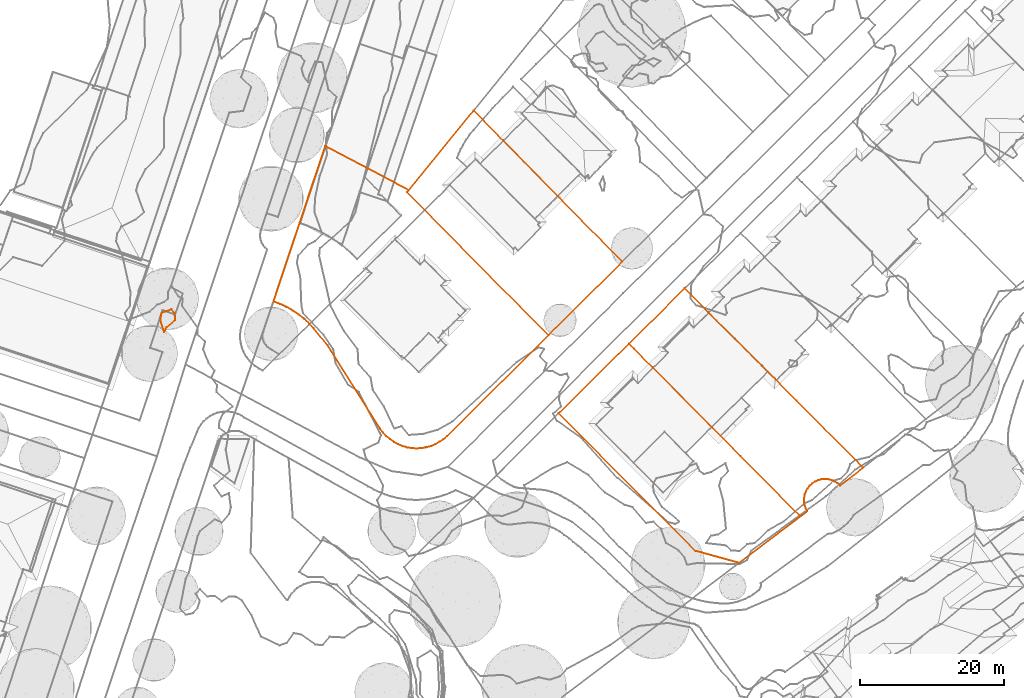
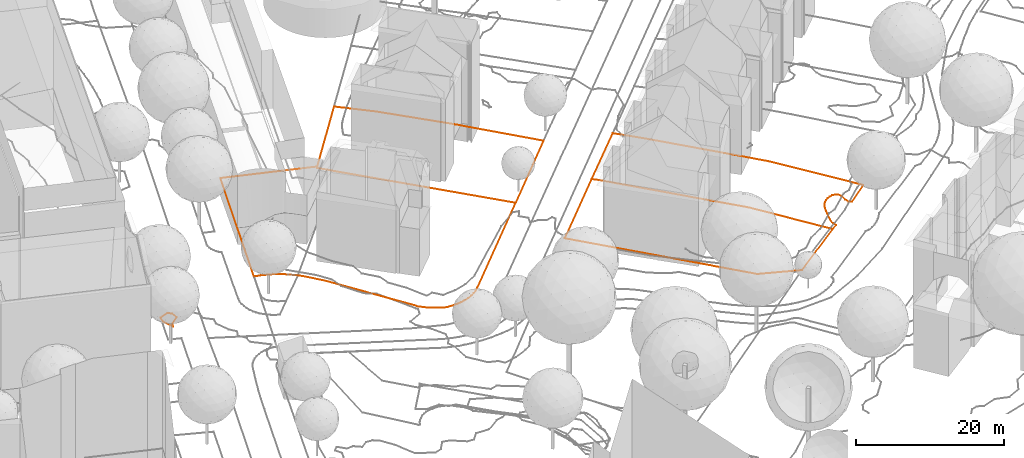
# Not in any storey, part 103 of 477: 5 geographic elements.
"""IFC4 model written with IfcOpenShell, lengths in metres."""

import ifcopenshell
import ifcopenshell.guid

model = None  # the IFC model being written
_history = None  # IfcOwnerHistory: only IFC2X3 demands one
_inside = {}  # id of a spatial element -> (the spatial element, [elements in it])
_under = {}  # id of a project, library or spatial element -> (it, [spatial elements below it])
_declared = {}  # id of a project -> (the project, [libraries it declares])
_typed = {}  # id of a type object -> (the type object, [elements of that type])
_made_of = {}  # id of a material, layer set ... -> (it, [elements and type objects made of it])


def new_model(schema):
    """Start an empty IFC model of exactly this schema.

    Asked for "IFC4X3", IfcOpenShell would pick the latest addendum, in which some entities
    have other attributes; the version numbers below select the first issue.
    IFC2X3 requires an IfcOwnerHistory on every rooted entity: one is made here for all.
    """
    global model, _history
    if schema == "IFC4X3":
        model = ifcopenshell.file(schema_version=(4, 3, 0, 0))
    else:
        model = ifcopenshell.file(schema=schema)
    _inside.clear()
    _under.clear()
    _declared.clear()
    _typed.clear()
    _made_of.clear()
    _history = None
    if model.schema == "IFC2X3":
        org = make("IfcOrganization", Name="unknown")
        user = make(
            "IfcPersonAndOrganization",
            ThePerson=make("IfcPerson", FamilyName="unknown"),
            TheOrganization=org,
        )
        app = make(
            "IfcApplication",
            ApplicationDeveloper=org,
            Version="unknown",
            ApplicationFullName="unknown",
            ApplicationIdentifier="unknown",
        )
        _history = make(
            "IfcOwnerHistory",
            OwningUser=user,
            OwningApplication=app,
            ChangeAction="ADDED",
            CreationDate=0,
        )
    return model


def make(cls, **values):
    """One entity of the class cls with the attributes given. An attribute that is None is left unset."""
    return model.create_entity(
        cls, **{name: value for name, value in values.items() if value is not None}
    )


def entity(cls, *values):
    """Any entity or typed value of the class cls, its attributes in the order of the schema. None: left unset."""
    e = model.create_entity(cls)
    for i, value in enumerate(values):
        if value is not None:
            e[i] = value
    return e


def rooted(cls, **values):
    """An entity with a GlobalId (a new one), such as an element, a storey or a relation."""
    return make(cls, GlobalId=ifcopenshell.guid.new(), OwnerHistory=_history, **values)


def si_unit(unit_type, name, prefix=None):
    """IfcSIUnit, for example si_unit("LENGTHUNIT", "METRE", prefix="MILLI")."""
    return make("IfcSIUnit", UnitType=unit_type, Prefix=prefix, Name=name)


def assignment(units):
    """IfcUnitAssignment: the units of a project."""
    return None if units is None else make("IfcUnitAssignment", Units=units)


def point(xyz):
    """IfcCartesianPoint."""
    return None if xyz is None else make("IfcCartesianPoint", Coordinates=xyz)


def direction(xyz):
    """IfcDirection."""
    return None if xyz is None else make("IfcDirection", DirectionRatios=xyz)


def frame(location, z_axis=None, x_axis=None):
    """IfcAxis2Placement3D, a coordinate frame: its origin and axes. An axis left out is left unset."""
    return make(
        "IfcAxis2Placement3D",
        Location=point(location),
        Axis=direction(z_axis),
        RefDirection=direction(x_axis),
    )


def origin_with_axes():
    """The frame at (0, 0, 0) with the z axis (0, 0, 1) and the x axis (1, 0, 0) written out."""
    return frame((0.0, 0.0, 0.0), z_axis=(0.0, 0.0, 1.0), x_axis=(1.0, 0.0, 0.0))


def place(relative_to, where):
    """IfcLocalPlacement: puts the frame where relative to a parent placement (None: the world)."""
    return make(
        "IfcLocalPlacement", PlacementRelTo=relative_to, RelativePlacement=where
    )


def context(
    kind, dimensions, precision=None, world=None, true_north=None, identifier=None
):
    """IfcGeometricRepresentationContext, for example the 3D "Model" context."""
    return make(
        "IfcGeometricRepresentationContext",
        ContextIdentifier=identifier,
        ContextType=kind,
        CoordinateSpaceDimension=dimensions,
        Precision=precision,
        WorldCoordinateSystem=world,
        TrueNorth=true_north,
    )


def subcontext(parent, identifier, kind, view, scale=None):
    """IfcGeometricRepresentationSubContext, for example "Body" below "Model"."""
    return make(
        "IfcGeometricRepresentationSubContext",
        ContextIdentifier=identifier,
        ContextType=kind,
        ParentContext=parent,
        TargetScale=scale,
        TargetView=view,
    )


def project(units=None, contexts=None):
    """IfcProject with its units and contexts."""
    return rooted(
        "IfcProject",
        Name="project",
        RepresentationContexts=contexts,
        UnitsInContext=assignment(units),
    )


def spatial(cls, under=None, at=None, **own):
    """A site, building, storey or space (cls), placed at a placement, below another one or the project."""
    s = rooted(cls, ObjectPlacement=at, **own)
    if under is not None:
        _under.setdefault(under.id(), (under, []))[1].append(s)
    return s


def shape(context_of_items, identifier, shape_type, items):
    """IfcShapeRepresentation: the items that make up one representation, for example the "Body"."""
    return make(
        "IfcShapeRepresentation",
        ContextOfItems=context_of_items,
        RepresentationIdentifier=identifier,
        RepresentationType=shape_type,
        Items=items,
    )


def made_of(thing, what):
    """Note that an element or type object is made of a material, layer set ...; save() writes the relation."""
    if what is not None:
        _made_of.setdefault(what.id(), (what, []))[1].append(thing)
    return thing


def element(
    cls,
    number,
    at=None,
    inside=None,
    cuts=None,
    type_object=None,
    material=None,
    context=None,
    identifier="Body",
    shape_type=None,
    held_by="IfcProductDefinitionShape",
    body=None,
    shapes=None,
    **own,
):
    """One element of the class cls, such as IfcWall. Its Tag is "e" and its number.

    at: its placement. inside: the storey or other place that contains it. cuts: it is an
    opening in that element (IfcRelVoidsElement). A single representation is given by context,
    identifier, shape_type and body (its items); several are given by shapes. held_by: the class
    of the entity that holds the representations. save() writes the other relations.
    """
    e = rooted(cls, Tag="e%d" % number, ObjectPlacement=at, **own)
    if body is not None:
        shapes = [shape(context, identifier, shape_type, body)]
    if shapes is not None:
        e.Representation = make(held_by, Representations=shapes)
    if inside is not None:
        _inside.setdefault(inside.id(), (inside, []))[1].append(e)
    if cuts is not None:
        rooted(
            "IfcRelVoidsElement", RelatingBuildingElement=cuts, RelatedOpeningElement=e
        )
    if type_object is not None:
        _typed.setdefault(type_object.id(), (type_object, []))[1].append(e)
    return made_of(e, material)


def aggregate(whole, parts):
    """IfcRelAggregates: a whole, such as a stair, and the parts it consists of."""
    return rooted("IfcRelAggregates", RelatingObject=whole, RelatedObjects=parts)


def save(model, path):
    """Write the relations noted so far, then the file.

    IfcRelAggregates (storeys below a building ...), IfcRelContainedInSpatialStructure (elements
    in a storey), IfcRelDefinesByType, IfcRelAssociatesMaterial and IfcRelDeclares: one each for
    every whole, place, type object, material and project.
    """
    for whole, parts in _under.values():
        aggregate(whole, parts)
    for where, things in _inside.values():
        rooted(
            "IfcRelContainedInSpatialStructure",
            RelatedElements=things,
            RelatingStructure=where,
        )
    for kind, things in _typed.values():
        rooted("IfcRelDefinesByType", RelatedObjects=things, RelatingType=kind)
    for what, things in _made_of.values():
        rooted("IfcRelAssociatesMaterial", RelatedObjects=things, RelatingMaterial=what)
    for by, libraries in _declared.values():
        rooted("IfcRelDeclares", RelatingContext=by, RelatedDefinitions=libraries)
    model.write(path)


model = new_model("IFC4")

# Units and contexts
model_context = context("Model", 3, precision=1e-05, world=origin_with_axes())
body_context = subcontext(model_context, "Body", "Model", "MODEL_VIEW")
ifc_project = project(units=[si_unit("AREAUNIT", "SQUARE_METRE"), si_unit("LENGTHUNIT", "METRE")], contexts=[model_context])

# Sites
site_1_placement = place(None, origin_with_axes())
site_1 = spatial("IfcSite", under=ifc_project, at=site_1_placement, Name="Topoexport Site")
site_2_placement = place(site_1_placement, origin_with_axes())
site_2 = spatial("IfcSite", under=site_1, at=site_2_placement, Name="TPX_CADASTRES")

# Geographic elements
geographic_element_1_placement = place(site_2_placement, frame((68.8427320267, 122.7727160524, 530.417360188), z_axis=(0.0, 0.0, 1.0), x_axis=(1.0, 0.0, 0.0)))
element("IfcGeographicElement", 1, at=geographic_element_1_placement, inside=site_2, Name="Cadastre 85", PredefinedType="NOTDEFINED", context=body_context, shape_type="GeometricCurveSet", body=[
    entity("IfcGeometricCurveSet", [entity("IfcIndexedPolyCurve", entity("IfcCartesianPointList3D", [[0.0, 0.0, 0.0], [7.216, 21.5920000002, 0.6431856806], [18.8229999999, 15.4670000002, 2.1940754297], [18.6129999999, 15.202, 2.1888868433], [38.2280000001, -4.703, 1.6286142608], [24.159, -18.6869999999, 1.0120794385], [23.6570000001, -19.129, 0.9655245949], [23.1099999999, -19.514, 0.9498847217], [22.5240000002, -19.8369999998, 0.9385810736], [21.906, -20.0929999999, 0.9072837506], [21.264, -20.28, 0.8909924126], [20.605, -20.3959999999, 0.8715526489], [19.9369999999, -20.439, 0.8457324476], [19.2689999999, -20.4079999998, 0.8118529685], [18.6069999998, -20.2959999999, 0.7455470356], [17.9610000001, -20.1129999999, 0.7179012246], [17.3390000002, -19.8589999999, 0.8052376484], [16.7489999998, -19.5389999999, 0.7909824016], [16.1970000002, -19.156, 0.7412629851], [15.6919999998, -18.7139999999, 0.7802430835], [15.2370000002, -18.219, 0.6997884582], [14.8399999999, -17.6779999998, 0.7608722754], [7.5320000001, -6.088, 0.3496145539], [5.5830000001, -3.6979999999, 0.3193243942], [5.0430000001, -3.1369999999, 0.292537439], [4.3130000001, -2.4549999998, 0.2433788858], [3.5329999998, -1.8319999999, 0.238008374], [2.7060000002, -1.2719999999, 0.205761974], [1.838, -0.7779999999, 0.1226898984], [0.9339999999, -0.3529999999, 0.0639246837], [0.0, 0.0, 0.0]]))]),
])
geographic_element_2_placement = place(site_2_placement, frame((118.2847320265, 116.9207160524, 532.7349567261), z_axis=(0.0, 0.0, 1.0), x_axis=(1.0, 0.0, 0.0)))
element("IfcGeographicElement", 2, at=geographic_element_2_placement, inside=site_2, Name="Cadastre 101", PredefinedType="NOTDEFINED", context=body_context, shape_type="GeometricCurveSet", body=[
    entity("IfcGeometricCurveSet", [entity("IfcIndexedPolyCurve", entity("IfcCartesianPointList3D", [[0.0, 0.0, 0.0], [7.7440000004, 7.673, 0.2246414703], [11.0140000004, 4.3959999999, 0.1843074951], [23.3110000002, -7.9280000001, -0.4293310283], [32.5590000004, -17.2479999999, -1.9134677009], [29.3490000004, -19.7490000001, -1.9846830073], [28.9960000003, -19.4309999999, -2.1019947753], [28.5960000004, -19.175, -1.729465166], [28.1600000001, -18.9879999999, -1.132598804], [27.7000000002, -18.8740000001, -0.8013296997], [27.2260000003, -18.8359999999, -0.6658270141], [26.753, -18.8759999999, -0.5786692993], [26.2930000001, -18.9920000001, -0.5726498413], [25.858, -19.1809999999, -0.5716590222], [25.4590000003, -19.439, -0.5752112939], [25.105, -19.7609999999, -0.5809099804], [24.8080000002, -20.1369999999, -0.5889227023], [24.577, -20.557, -0.6007160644], [24.4180000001, -21.0079999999, -0.6168032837], [24.3350000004, -21.48, -0.8111135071], [24.3310000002, -21.959, -1.1941257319], [24.4050000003, -22.432, -1.6443335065], [24.5560000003, -22.8859999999, -2.0126975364], [24.7790000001, -23.3100000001, -2.1475216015], [23.8490000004, -24.02, -2.0423762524], [15.5310000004, -15.6499999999, -0.6289350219], [3.2740000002, -3.3, -0.0829993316], [0.6940000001, -0.71, 0.0508870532], [0.0, 0.0, 0.0]]))]),
])
geographic_element_3_placement = place(site_2_placement, frame((108.4897320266, 107.2177160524, 532.2610007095), z_axis=(0.0, 0.0, 1.0), x_axis=(1.0, 0.0, 0.0)))
element("IfcGeographicElement", 3, at=geographic_element_3_placement, inside=site_2, Name="Cadastre 103", PredefinedType="NOTDEFINED", context=body_context, shape_type="GeometricCurveSet", body=[
    entity("IfcGeometricCurveSet", [entity("IfcIndexedPolyCurve", entity("IfcCartesianPointList3D", [[0.0, 0.0, 0.0], [9.7949999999, 9.703, 0.4739560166], [10.4890000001, 8.993, 0.5248430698], [13.0690000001, 6.4029999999, 0.3909566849], [25.3260000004, -5.9469999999, -0.1549790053], [33.6440000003, -14.317, -1.5684202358], [25.105, -20.7890000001, -1.4389345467], [19.0760000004, -19.1200000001, -0.9922750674], [0.0, 0.0, 0.0]]))]),
])
geographic_element_4_placement = place(site_2_placement, frame((87.4557320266, 137.9747160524, 532.6062470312), z_axis=(0.0, 0.0, 1.0), x_axis=(1.0, 0.0, 0.0)))
element("IfcGeographicElement", 4, at=geographic_element_4_placement, inside=site_2, Name="Cadastre 104", PredefinedType="NOTDEFINED", context=body_context, shape_type="GeometricCurveSet", body=[
    entity("IfcGeometricCurveSet", [entity("IfcIndexedPolyCurve", entity("IfcCartesianPointList3D", [[0.0, 0.0, 0.0], [0.21, 0.2650000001, 0.0051885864], [9.2390000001, 11.358, 0.0370488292], [13.3310000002, 7.192, 0.3202888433], [21.1510000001, -0.7690000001, 0.2798488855], [29.895, -9.672, -0.096589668], [19.6150000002, -19.905, -0.5602725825], [0.0, 0.0, 0.0]]))]),
])

# Site
site_3_placement = place(site_1_placement, origin_with_axes())
site_3 = spatial("IfcSite", under=site_1, at=site_3_placement, Name="TPX_CONTOUR_LINES")

# Geographic element
geographic_element_5_placement = place(site_3_placement, frame((53.1435893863, 120.1707160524, 530.0), z_axis=(0.0, 0.0, 1.0), x_axis=(1.0, 0.0, 0.0)))
element("IfcGeographicElement", 5, at=geographic_element_5_placement, inside=site_3, Name="Contour Line 530.0 m", PredefinedType="NOTDEFINED", context=body_context, shape_type="GeometricCurveSet", body=[
    entity("IfcGeometricCurveSet", [entity("IfcIndexedPolyCurve", entity("IfcCartesianPointList3D", [[0.8458633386, -1.0, 0.0], [0.5341426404, -1.6893382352, 0.0], [0.0, 0.0, 0.0], [0.1304915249, 1.0, 0.0], [1.5341426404, 1.5040871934, 0.0], [1.9684149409, 1.0, 0.0], [2.0663419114, 0.0, 0.0], [0.8458633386, -1.0, 0.0]]))]),
])

save(model, "model.ifc")
